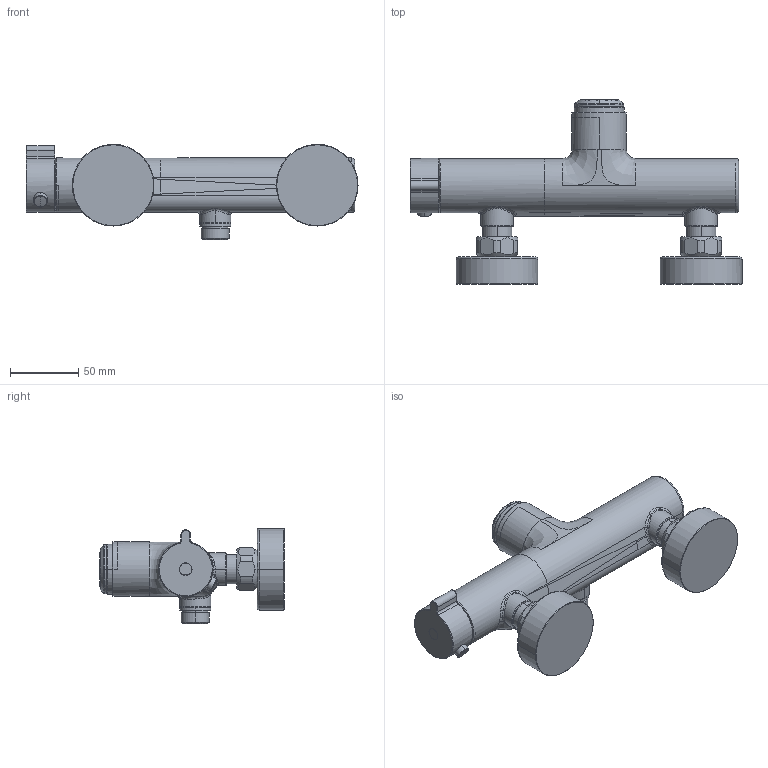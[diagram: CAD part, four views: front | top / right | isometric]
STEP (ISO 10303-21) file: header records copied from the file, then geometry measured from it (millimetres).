
FILE_DESCRIPTION((''),'2;1');
FILE_NAME('150_SW0003','2021-06-14T15:40:15',('KS894'),(''),'CREO PARAMETRIC BY PTC INC, 2018500','CREO PARAMETRIC BY PTC INC, 2018500','');
FILE_SCHEMA(('CONFIG_CONTROL_DESIGN'));
Length unit declared in the file: millimetre
Products named in the file (1): 150_SW0003
Bounding box: 244.1 x 135.59 x 70 mm (x, y, z)
Volume: 532704.8 mm3; surface area: 66729.7 mm2
Topology: 1 solids, 1 shells, 270 faces, 697 edges, 439 vertices
Faces by surface type: bspline 79, cylinder 74, plane 47, torus 33, cone 29, extrusion 4, sphere 4
Entity records: 14052 total; most frequent: CARTESIAN_POINT 8076, ORIENTED_EDGE 1386, DIRECTION 1053, EDGE_CURVE 693, AXIS2_PLACEMENT_3D 447, VERTEX_POINT 439, EDGE_LOOP 284, B_SPLINE_CURVE_WITH_KNOTS 282
